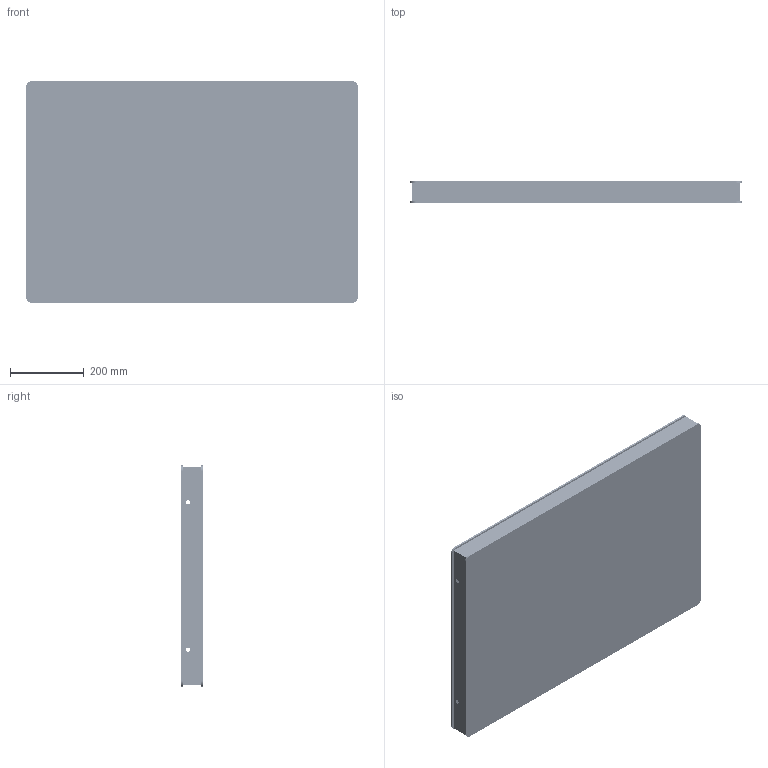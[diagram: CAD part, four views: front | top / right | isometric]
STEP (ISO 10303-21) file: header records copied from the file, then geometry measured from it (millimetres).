
FILE_DESCRIPTION (( 'STEP AP203' ), '1' );
FILE_NAME ('TT-D6090.STEP', '2020-03-05T06:50:56', ( '' ), ( '' ), 'SwSTEP 2.0', 'SolidWorks 2016', '' );
FILE_SCHEMA (( 'CONFIG_CONTROL_DESIGN' ));
Length unit declared in the file: millimetre
Products named in the file (2): TT-D6090-1; TT-D6090
Assembly tree (1 placements, depth 2):
  TT-D6090
    TT-D6090-1
Bounding box: 900 x 58.2 x 600 mm (x, y, z)
Volume: 5298484.4 mm3; surface area: 2503141.5 mm2
Topology: 1 solids, 1 shells, 1648 faces, 4926 edges, 3284 vertices
Faces by surface type: cylinder 1626, plane 22
Entity records: 60930 total; most frequent: DIRECTION 11482, CARTESIAN_POINT 9862, ORIENTED_EDGE 9852, EDGE_CURVE 4926, AXIS2_PLACEMENT_3D 4904, VERTEX_POINT 3284, EDGE_LOOP 3268, CIRCLE 3252
